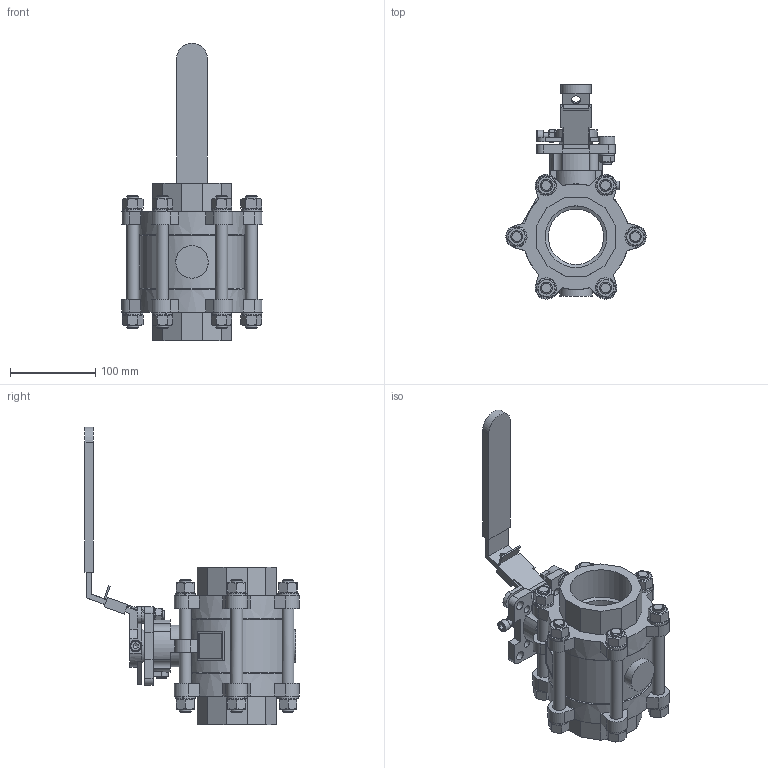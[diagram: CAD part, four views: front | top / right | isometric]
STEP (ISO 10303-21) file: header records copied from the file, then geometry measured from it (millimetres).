
FILE_DESCRIPTION(/* description */ ('Eriks item no: 13278902'),/* implementation_level */ '2;1');
FILE_NAME(/* name */ 'L:\DATA\ENG\Inventor\Econ 3D modellen\kogelkranen\7442\Rubens Versie\7442-DN65-FB.stp',/* time_stamp */ '2023-06-08T08:13:11+02:00',/* author */ ('roger.thijssen'),/* organization */ (''),/* preprocessor_version */ 'ST-DEVELOPER v18',/* originating_system */ 'Autodesk Inventor 2020',/* authorisation */ '');
FILE_SCHEMA (('CONFIG_CONTROL_DESIGN'));
Length unit declared in the file: millimetre
Products named in the file (1): Ball valve, 7442 - 2.1/2" - FB, (TF4103)
Bounding box: 164.9 x 251.03 x 349 mm (x, y, z)
Volume: 1749351.2 mm3; surface area: 270193.2 mm2
Topology: 1 solids, 1 shells, 809 faces, 2224 edges, 1448 vertices
Faces by surface type: plane 525, cylinder 184, cone 67, bspline 30, torus 3
Full cylindrical faces by diameter (mm): 8 x2, 9 x4, 10 x4, 11 x5, 12 x1, 13 x1, 14 x18, 15 x14, 19.2 x1, 38 x1, 47 x1, 55 x1, 65 x1, 72.226 x2, 122 x1, 124 x2
Entity records: 26352 total; most frequent: CARTESIAN_POINT 5628, ORIENTED_EDGE 4446, DIRECTION 4177, EDGE_CURVE 2223, AXIS2_PLACEMENT_3D 1476, VERTEX_POINT 1448, LINE 1225, VECTOR 1225
